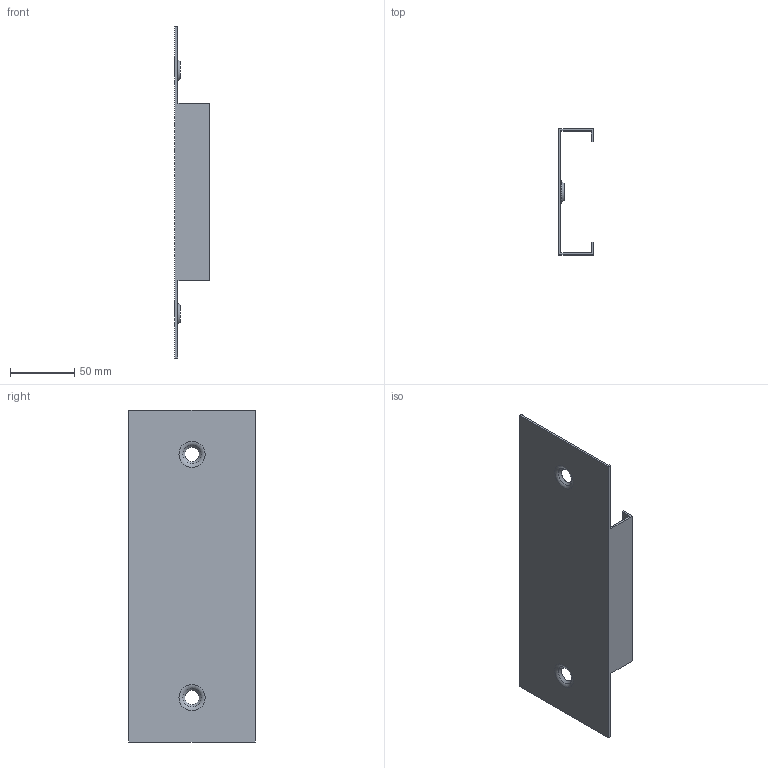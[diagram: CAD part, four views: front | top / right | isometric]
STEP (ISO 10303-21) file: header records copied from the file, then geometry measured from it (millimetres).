
FILE_DESCRIPTION( ( 'STEP AP214' ), '1' );
FILE_NAME( 'p:/temp/worker_624/temp/exporttempdir_4416_167_ZayYd/format_0/PS1030(0).stp', '2020-11-30T14:09:01', ( 'License CC BY-ND 4.0' ), ( 'CADENAS' ), ' ', 'PARTsolutions', ' ' );
FILE_SCHEMA( ( 'AUTOMOTIVE_DESIGN { 1 0 10303 214 1 1 1 1 }' ) );
Length unit declared in the file: millimetre
Products named in the file (1): _PS1030(0)
Bounding box: 26.5 x 98 x 258 mm (x, y, z)
Volume: 51873.6 mm3; surface area: 70545.9 mm2
Topology: 1 solids, 1 shells, 32 faces, 82 edges, 52 vertices
Faces by surface type: plane 22, cone 6, torus 4
Entity records: 1184 total; most frequent: CARTESIAN_POINT 157, DIRECTION 150, ORIENTED_EDGE 144, EDGE_CURVE 72, LINE 60, VECTOR 60, VERTEX_POINT 52, EDGE_LOOP 46
